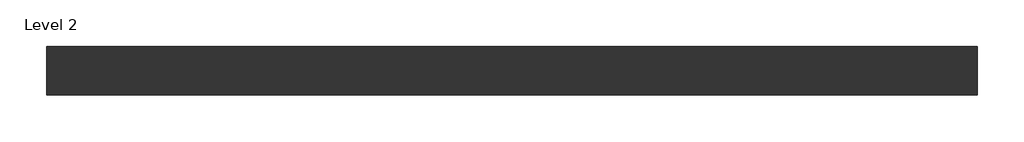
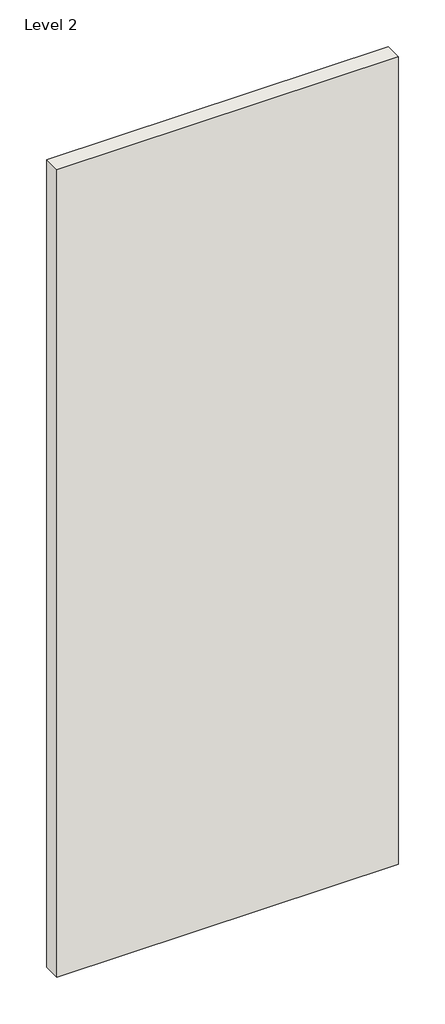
# One storey: 1 wall.
"""IFC4 building model written with IfcOpenShell, lengths in millimetres."""

import ifcopenshell
import ifcopenshell.guid

model = None  # the IFC model being written
_history = None  # IfcOwnerHistory: only IFC2X3 demands one
_inside = {}  # id of a spatial element -> (the spatial element, [elements in it])
_under = {}  # id of a project, library or spatial element -> (it, [spatial elements below it])
_declared = {}  # id of a project -> (the project, [libraries it declares])
_typed = {}  # id of a type object -> (the type object, [elements of that type])
_made_of = {}  # id of a material, layer set ... -> (it, [elements and type objects made of it])


def new_model(schema):
    """Start an empty IFC model of exactly this schema.

    Asked for "IFC4X3", IfcOpenShell would pick the latest addendum, in which some entities
    have other attributes; the version numbers below select the first issue.
    IFC2X3 requires an IfcOwnerHistory on every rooted entity: one is made here for all.
    """
    global model, _history
    if schema == "IFC4X3":
        model = ifcopenshell.file(schema_version=(4, 3, 0, 0))
    else:
        model = ifcopenshell.file(schema=schema)
    _inside.clear()
    _under.clear()
    _declared.clear()
    _typed.clear()
    _made_of.clear()
    _history = None
    if model.schema == "IFC2X3":
        org = make("IfcOrganization", Name="unknown")
        user = make(
            "IfcPersonAndOrganization",
            ThePerson=make("IfcPerson", FamilyName="unknown"),
            TheOrganization=org,
        )
        app = make(
            "IfcApplication",
            ApplicationDeveloper=org,
            Version="unknown",
            ApplicationFullName="unknown",
            ApplicationIdentifier="unknown",
        )
        _history = make(
            "IfcOwnerHistory",
            OwningUser=user,
            OwningApplication=app,
            ChangeAction="ADDED",
            CreationDate=0,
        )
    return model


def make(cls, **values):
    """One entity of the class cls with the attributes given. An attribute that is None is left unset."""
    return model.create_entity(
        cls, **{name: value for name, value in values.items() if value is not None}
    )


def rooted(cls, **values):
    """An entity with a GlobalId (a new one), such as an element, a storey or a relation."""
    return make(cls, GlobalId=ifcopenshell.guid.new(), OwnerHistory=_history, **values)


def si_unit(unit_type, name, prefix=None):
    """IfcSIUnit, for example si_unit("LENGTHUNIT", "METRE", prefix="MILLI")."""
    return make("IfcSIUnit", UnitType=unit_type, Prefix=prefix, Name=name)


def assignment(units):
    """IfcUnitAssignment: the units of a project."""
    return None if units is None else make("IfcUnitAssignment", Units=units)


def point(xyz):
    """IfcCartesianPoint."""
    return None if xyz is None else make("IfcCartesianPoint", Coordinates=xyz)


def direction(xyz):
    """IfcDirection."""
    return None if xyz is None else make("IfcDirection", DirectionRatios=xyz)


def frame(location, z_axis=None, x_axis=None):
    """IfcAxis2Placement3D, a coordinate frame: its origin and axes. An axis left out is left unset."""
    return make(
        "IfcAxis2Placement3D",
        Location=point(location),
        Axis=direction(z_axis),
        RefDirection=direction(x_axis),
    )


def origin():
    """The frame at (0, 0, 0) with its axes left unset."""
    return frame((0.0, 0.0, 0.0))


def place(relative_to, where):
    """IfcLocalPlacement: puts the frame where relative to a parent placement (None: the world)."""
    return make(
        "IfcLocalPlacement", PlacementRelTo=relative_to, RelativePlacement=where
    )


def context(
    kind, dimensions, precision=None, world=None, true_north=None, identifier=None
):
    """IfcGeometricRepresentationContext, for example the 3D "Model" context."""
    return make(
        "IfcGeometricRepresentationContext",
        ContextIdentifier=identifier,
        ContextType=kind,
        CoordinateSpaceDimension=dimensions,
        Precision=precision,
        WorldCoordinateSystem=world,
        TrueNorth=true_north,
    )


def project(units=None, contexts=None):
    """IfcProject with its units and contexts."""
    return rooted(
        "IfcProject",
        Name="project",
        RepresentationContexts=contexts,
        UnitsInContext=assignment(units),
    )


def spatial(cls, under=None, at=None, **own):
    """A site, building, storey or space (cls), placed at a placement, below another one or the project."""
    s = rooted(cls, ObjectPlacement=at, **own)
    if under is not None:
        _under.setdefault(under.id(), (under, []))[1].append(s)
    return s


def polyline(points):
    """IfcPolyline through the points."""
    return make("IfcPolyline", Points=[point(p) for p in points])


def outline(outer, holes=None, kind="AREA"):
    """IfcArbitraryClosedProfileDef: a profile drawn as a closed curve; with holes, ...WithVoids."""
    if holes is None:
        return make("IfcArbitraryClosedProfileDef", ProfileType=kind, OuterCurve=outer)
    return make(
        "IfcArbitraryProfileDefWithVoids",
        ProfileType=kind,
        OuterCurve=outer,
        InnerCurves=holes,
    )


def extrude(swept, where, along, depth):
    """IfcExtrudedAreaSolid: the profile swept, set in the frame where, extruded along a direction by depth."""
    return make(
        "IfcExtrudedAreaSolid",
        SweptArea=swept,
        Position=where,
        ExtrudedDirection=direction(along),
        Depth=depth,
    )


def shape(context_of_items, identifier, shape_type, items):
    """IfcShapeRepresentation: the items that make up one representation, for example the "Body"."""
    return make(
        "IfcShapeRepresentation",
        ContextOfItems=context_of_items,
        RepresentationIdentifier=identifier,
        RepresentationType=shape_type,
        Items=items,
    )


def made_of(thing, what):
    """Note that an element or type object is made of a material, layer set ...; save() writes the relation."""
    if what is not None:
        _made_of.setdefault(what.id(), (what, []))[1].append(thing)
    return thing


def element(
    cls,
    number,
    at=None,
    inside=None,
    cuts=None,
    type_object=None,
    material=None,
    context=None,
    identifier="Body",
    shape_type=None,
    held_by="IfcProductDefinitionShape",
    body=None,
    shapes=None,
    **own,
):
    """One element of the class cls, such as IfcWall. Its Tag is "e" and its number.

    at: its placement. inside: the storey or other place that contains it. cuts: it is an
    opening in that element (IfcRelVoidsElement). A single representation is given by context,
    identifier, shape_type and body (its items); several are given by shapes. held_by: the class
    of the entity that holds the representations. save() writes the other relations.
    """
    e = rooted(cls, Tag="e%d" % number, ObjectPlacement=at, **own)
    if body is not None:
        shapes = [shape(context, identifier, shape_type, body)]
    if shapes is not None:
        e.Representation = make(held_by, Representations=shapes)
    if inside is not None:
        _inside.setdefault(inside.id(), (inside, []))[1].append(e)
    if cuts is not None:
        rooted(
            "IfcRelVoidsElement", RelatingBuildingElement=cuts, RelatedOpeningElement=e
        )
    if type_object is not None:
        _typed.setdefault(type_object.id(), (type_object, []))[1].append(e)
    return made_of(e, material)


def aggregate(whole, parts):
    """IfcRelAggregates: a whole, such as a stair, and the parts it consists of."""
    return rooted("IfcRelAggregates", RelatingObject=whole, RelatedObjects=parts)


def save(model, path):
    """Write the relations noted so far, then the file.

    IfcRelAggregates (storeys below a building ...), IfcRelContainedInSpatialStructure (elements
    in a storey), IfcRelDefinesByType, IfcRelAssociatesMaterial and IfcRelDeclares: one each for
    every whole, place, type object, material and project.
    """
    for whole, parts in _under.values():
        aggregate(whole, parts)
    for where, things in _inside.values():
        rooted(
            "IfcRelContainedInSpatialStructure",
            RelatedElements=things,
            RelatingStructure=where,
        )
    for kind, things in _typed.values():
        rooted("IfcRelDefinesByType", RelatedObjects=things, RelatingType=kind)
    for what, things in _made_of.values():
        rooted("IfcRelAssociatesMaterial", RelatedObjects=things, RelatingMaterial=what)
    for by, libraries in _declared.values():
        rooted("IfcRelDeclares", RelatingContext=by, RelatedDefinitions=libraries)
    model.write(path)


model = new_model("IFC4")

# Units and contexts
model_context = context("Model", 3, world=origin())
ifc_project = project(units=[si_unit("LENGTHUNIT", "METRE", prefix="MILLI")], contexts=[model_context])

# Site, building, storey
site = spatial("IfcSite", under=ifc_project)
building = spatial("IfcBuilding", under=site)
storey = spatial("IfcBuildingStorey", under=building, Name="Level 2", Elevation=4000.0)

# Wall
placement = place(None, origin())
element("IfcWall", 1, ObjectType="RIGIPS - 3.21.30 - EI 60, REI 60 (53)", at=placement, inside=storey, context=model_context, shape_type="SweptSolid", body=[
    extrude(outline(polyline([(1000.0, -26.25), (0.0, -26.25), (0.0, 26.25), (1000.0, 26.25), (1000.0, -26.25)])), frame((0.0, 0.0, 4000.0), z_axis=(0.0, 0.0, 1.0), x_axis=(1.0, 0.0, 0.0)), (0.0, 0.0, 1.0), 2500.0),
])

save(model, "model.ifc")
